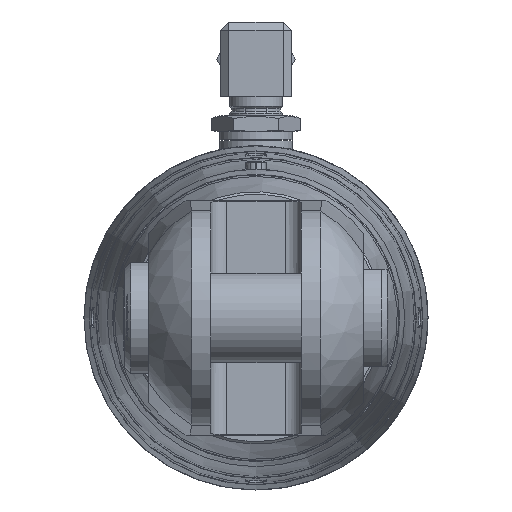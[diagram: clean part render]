
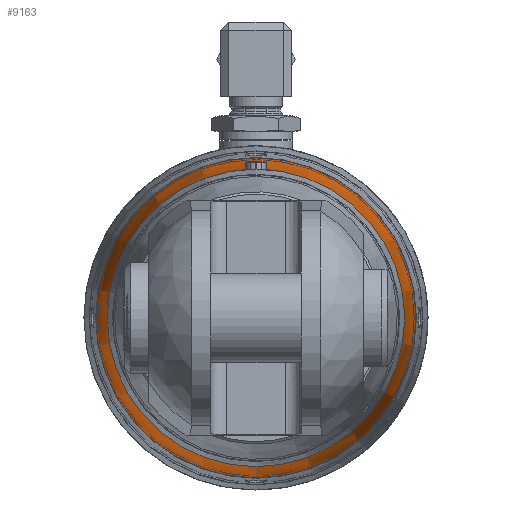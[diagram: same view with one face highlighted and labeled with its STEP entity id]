
A CAD part, left-side view. The second image highlights one B-rep face of the part: STEP entity #9163.
In plain terms, the highlighted conical face has half-angle 5 degrees and reference radius 38.423 mm.
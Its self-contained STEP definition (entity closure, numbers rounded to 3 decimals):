
#142=CONICAL_SURFACE('',#10118,38.424,0.087);
#888=LINE('',#16633,#1467);
#1467=VECTOR('',#12555,38.424);
#2813=FACE_OUTER_BOUND('',#3359,.T.);
#3359=EDGE_LOOP('',(#8475,#8476,#8477,#8478,#8479,#8480));
#3802=CIRCLE('',#10119,39.803);
#3803=CIRCLE('',#10120,39.803);
#3804=CIRCLE('',#10121,37.);
#3805=CIRCLE('',#10122,37.);
#4702=VERTEX_POINT('',#16628);
#4703=VERTEX_POINT('',#16629);
#4704=VERTEX_POINT('',#16632);
#4705=VERTEX_POINT('',#16634);
#5972=EDGE_CURVE('',#4702,#4703,#3802,.T.);
#5973=EDGE_CURVE('',#4703,#4702,#3803,.T.);
#5974=EDGE_CURVE('',#4703,#4704,#888,.T.);
#5975=EDGE_CURVE('',#4705,#4704,#3804,.T.);
#5976=EDGE_CURVE('',#4704,#4705,#3805,.T.);
#8475=ORIENTED_EDGE('',*,*,#5972,.F.);
#8476=ORIENTED_EDGE('',*,*,#5973,.F.);
#8477=ORIENTED_EDGE('',*,*,#5974,.T.);
#8478=ORIENTED_EDGE('',*,*,#5975,.F.);
#8479=ORIENTED_EDGE('',*,*,#5976,.F.);
#8480=ORIENTED_EDGE('',*,*,#5974,.F.);
#9163=ADVANCED_FACE('',(#2813),#142,.T.);
#10118=AXIS2_PLACEMENT_3D('',#16627,#12549,#12550);
#10119=AXIS2_PLACEMENT_3D('',#16630,#12551,#12552);
#10120=AXIS2_PLACEMENT_3D('',#16631,#12553,#12554);
#10121=AXIS2_PLACEMENT_3D('',#16635,#12556,#12557);
#10122=AXIS2_PLACEMENT_3D('',#16636,#12558,#12559);
#12549=DIRECTION('center_axis',(1.,0.,0.));
#12550=DIRECTION('ref_axis',(0.,0.,
1.));
#12551=DIRECTION('center_axis',(1.,0.,0.));
#12552=DIRECTION('ref_axis',(0.,0.,
-1.));
#12553=DIRECTION('center_axis',(1.,0.,0.));
#12554=DIRECTION('ref_axis',(0.,0.,
-1.));
#12555=DIRECTION('',(-0.996,0.,0.087));
#12556=DIRECTION('center_axis',(-1.,0.,0.));
#12557=DIRECTION('ref_axis',(0.,0.,
-1.));
#12558=DIRECTION('center_axis',(-1.,0.,0.));
#12559=DIRECTION('ref_axis',(0.,0.,
-1.));
#16627=CARTESIAN_POINT('Origin',(-452.521,0.,0.));
#16628=CARTESIAN_POINT('',(-436.748,0.,39.803));
#16629=CARTESIAN_POINT('',(-436.748,0.,-39.803));
#16630=CARTESIAN_POINT('Origin',(-436.748,0.,
0.));
#16631=CARTESIAN_POINT('Origin',(-436.748,0.,
0.));
#16632=CARTESIAN_POINT('',(-468.791,0.,-37.));
#16633=CARTESIAN_POINT('',(-452.521,0.,-38.423));
#16634=CARTESIAN_POINT('',(-468.791,0.,37.));
#16635=CARTESIAN_POINT('Origin',(-468.791,0.,
0.));
#16636=CARTESIAN_POINT('Origin',(-468.791,0.,
0.));
